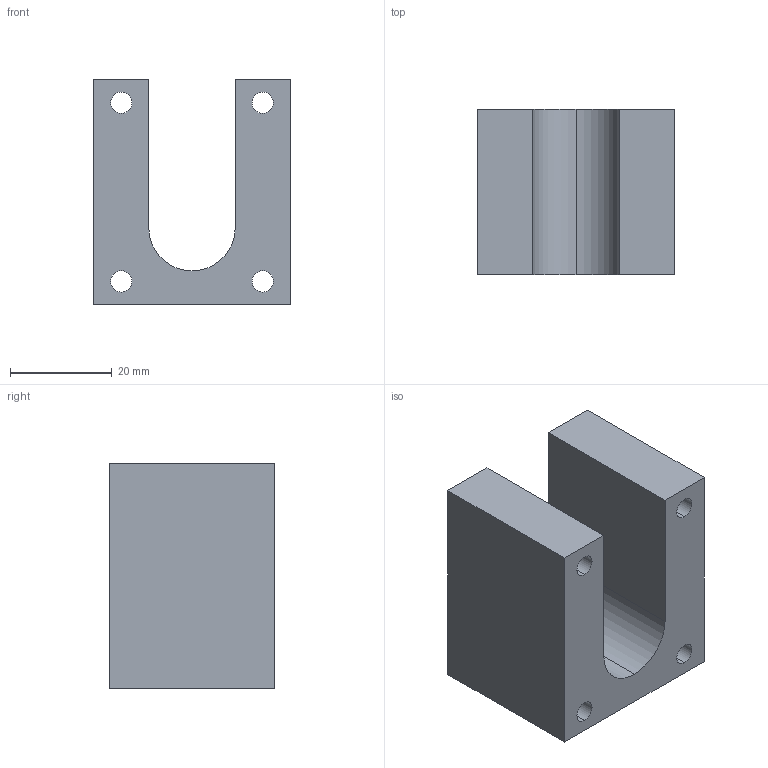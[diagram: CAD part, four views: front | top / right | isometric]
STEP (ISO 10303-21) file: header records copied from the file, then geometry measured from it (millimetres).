
FILE_DESCRIPTION(/* description */ ('(C) Elphel, Inc. 2012. Licensed under CERN OHL v.1.1 or later, see http://ohwr.org/cernohl'),/* implementation_level */ '2;1');
FILE_NAME(/* name */ '0353-22-35',/* time_stamp */ '2012-04-08T15:05:10-06:00',/* author */ (''),/* organization */ ('Elphel, Inc'),/* preprocessor_version */ 'ST-DEVELOPER v12',/* originating_system */ 'VariCAD 2012-1.04; kernel version (20100102)',/* authorisation */ '');
FILE_SCHEMA (('AUTOMOTIVE_DESIGN'));
Length unit declared in the file: millimetre
Products named in the file (1): Part
Bounding box: 38.8 x 32.5 x 44.3 mm (x, y, z)
Volume: 34258.8 mm3; surface area: 11436.2 mm2
Topology: 1 solids, 1 shells, 19 faces, 51 edges, 34 vertices
Faces by surface type: cylinder 10, plane 9
Entity records: 648 total; most frequent: DIRECTION 113, CARTESIAN_POINT 106, ORIENTED_EDGE 102, EDGE_CURVE 51, AXIS2_PLACEMENT_3D 41, VERTEX_POINT 34, LINE 31, VECTOR 31
